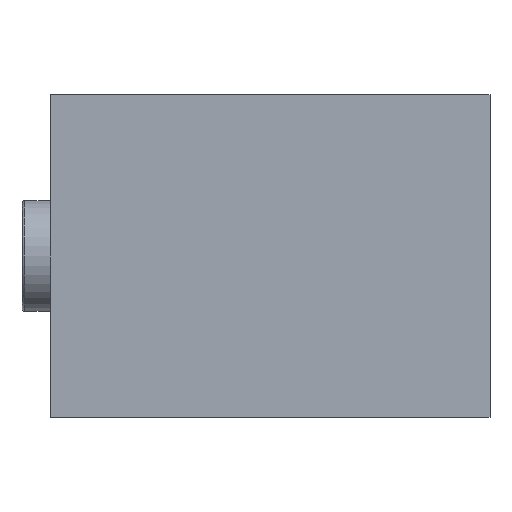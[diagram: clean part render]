
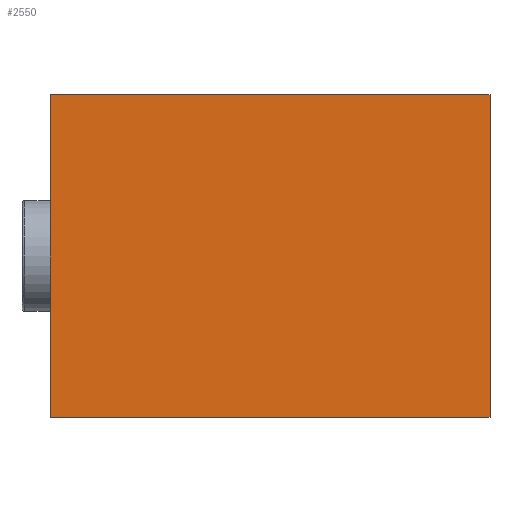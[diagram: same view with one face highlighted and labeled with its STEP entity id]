
A CAD part, front view. The second image highlights one B-rep face of the part: STEP entity #2550.
In plain terms, the highlighted planar face has unit normal (0, -1, 0).
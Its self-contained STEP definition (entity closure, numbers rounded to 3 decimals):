
#11 = CARTESIAN_POINT ( 'NONE',  ( -37.5, 0., -27.5 ) ) ;
#13 = LINE ( 'NONE', #1512, #307 ) ;
#65 = EDGE_LOOP ( 'NONE', ( #2320, #466, #1774, #2287 ) ) ;
#307 = VECTOR ( 'NONE', #2446, 1000. ) ;
#419 = CARTESIAN_POINT ( 'NONE',  ( 37.5, 0., -27.5 ) ) ;
#466 = ORIENTED_EDGE ( 'NONE', *, *, #735, .F. ) ;
#605 = EDGE_CURVE ( 'NONE', #1343, #1889, #13, .T. ) ;
#677 = VECTOR ( 'NONE', #1825, 1000. ) ;
#686 = CARTESIAN_POINT ( 'NONE',  ( 37.5, 0., 27.5 ) ) ;
#728 = CARTESIAN_POINT ( 'NONE',  ( 0., 0., 0. ) ) ;
#735 = EDGE_CURVE ( 'NONE', #968, #1343, #1303, .T. ) ;
#783 = CARTESIAN_POINT ( 'NONE',  ( -37.5, 0., -27.5 ) ) ;
#956 = DIRECTION ( 'NONE',  ( 0., 1., 0. ) ) ;
#968 = VERTEX_POINT ( 'NONE', #1661 ) ;
#1199 = VECTOR ( 'NONE', #2183, 1000. ) ;
#1219 = AXIS2_PLACEMENT_3D ( 'NONE', #728, #956, #2610 ) ;
#1282 = DIRECTION ( 'NONE',  ( 0., 0., 1. ) ) ;
#1303 = LINE ( 'NONE', #1805, #677 ) ;
#1339 = LINE ( 'NONE', #2709, #1454 ) ;
#1343 = VERTEX_POINT ( 'NONE', #686 ) ;
#1454 = VECTOR ( 'NONE', #1282, 1000. ) ;
#1492 = VERTEX_POINT ( 'NONE', #11 ) ;
#1512 = CARTESIAN_POINT ( 'NONE',  ( 37.5, 0., -27.5 ) ) ;
#1589 = LINE ( 'NONE', #783, #1199 ) ;
#1661 = CARTESIAN_POINT ( 'NONE',  ( -37.5, 0., 27.5 ) ) ;
#1664 = PLANE ( 'NONE',  #1219 ) ;
#1753 = FACE_OUTER_BOUND ( 'NONE', #65, .T. ) ;
#1774 = ORIENTED_EDGE ( 'NONE', *, *, #2794, .F. ) ;
#1805 = CARTESIAN_POINT ( 'NONE',  ( -37.5, 0., 27.5 ) ) ;
#1825 = DIRECTION ( 'NONE',  ( 1., 0., 0. ) ) ;
#1889 = VERTEX_POINT ( 'NONE', #419 ) ;
#2183 = DIRECTION ( 'NONE',  ( -1., 0., 0. ) ) ;
#2287 = ORIENTED_EDGE ( 'NONE', *, *, #2584, .F. ) ;
#2320 = ORIENTED_EDGE ( 'NONE', *, *, #605, .F. ) ;
#2446 = DIRECTION ( 'NONE',  ( 0., 0., -1. ) ) ;
#2550 = ADVANCED_FACE ( 'NONE', ( #1753 ), #1664, .F. ) ;
#2584 = EDGE_CURVE ( 'NONE', #1889, #1492, #1589, .T. ) ;
#2610 = DIRECTION ( 'NONE',  ( 0., 0., 1. ) ) ;
#2709 = CARTESIAN_POINT ( 'NONE',  ( -37.5, 0., -27.5 ) ) ;
#2794 = EDGE_CURVE ( 'NONE', #1492, #968, #1339, .T. ) ;
